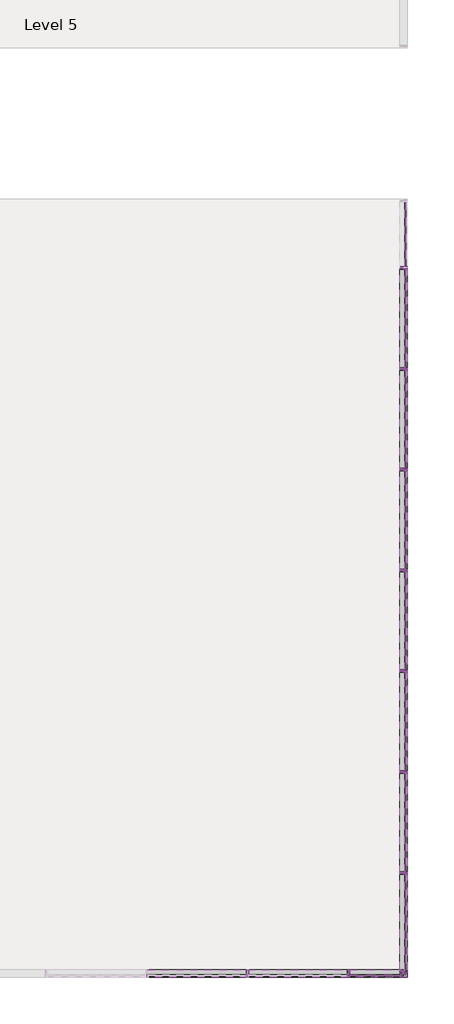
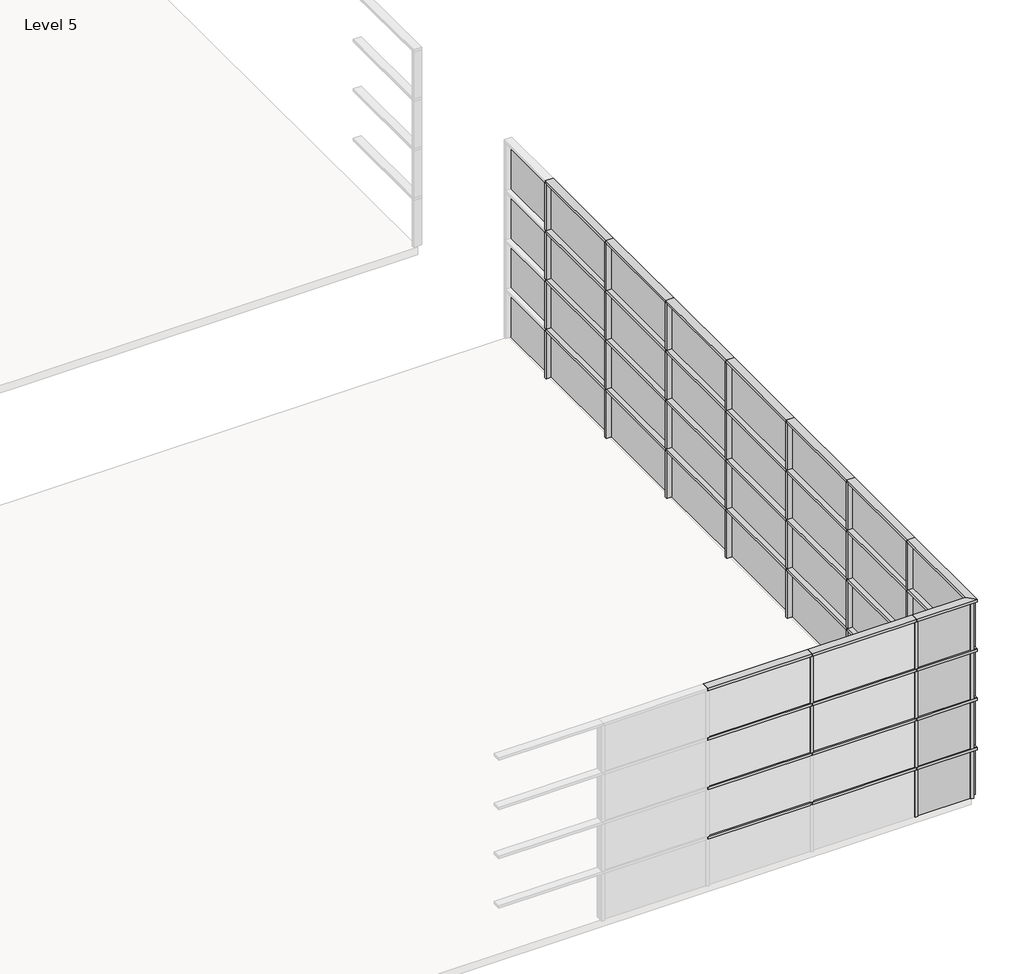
# One storey, part 3 of 5: 82 members, 36 plates.
"""IFC4 building model written with IfcOpenShell, lengths in millimetres."""

from ifc_helpers import new_model, si_unit, origin, place, context, project, spatial, transform, mapped, element, save
from components import rectangular_mullion_50_x_150mm_a053b0ca, rectangular_mullion_50_x_150mm_3a148f0f, rectangular_mullion_50_x_150mm_12a430f9, rectangular_mullion_50_x_150mm_947845bb, rectangular_mullion_50_x_150mm_f68fa77e, system_panel_glazed_751a585c, system_panel_glazed_08de6f5f, system_panel_glazed_3987acf4, system_panel_glazed_8ec8f306

model = new_model("IFC4")

# Units and contexts
model_context = context("Model", 3, world=origin())
ifc_project = project(units=[si_unit("LENGTHUNIT", "METRE", prefix="MILLI")], contexts=[model_context])

# Site, building, storey
site = spatial("IfcSite", under=ifc_project)
building = spatial("IfcBuilding", under=site)
storey = spatial("IfcBuildingStorey", under=building, Name="Level 5", Elevation=16000.0)

# Members
placement = place(None, origin())
rectangular_mullion_50_x_150mm_shape = rectangular_mullion_50_x_150mm_a053b0ca(model_context)
element("IfcMember", 1, ObjectType="Rectangular Mullion : 50 x 150mm", at=placement, inside=storey, context=model_context, shape_type="MappedRepresentation", body=[
    mapped(rectangular_mullion_50_x_150mm_shape, transform((10412.826594, -21988.7417365, 18025.0), x_axis=(1.0, 0.0, 0.0), y_axis=(0.0, -1.0, 0.0), z_axis=(0.0, 0.0, -1.0))),
])
element("IfcMember", 2, ObjectType="Rectangular Mullion : 50 x 150mm", at=placement, inside=storey, context=model_context, shape_type="MappedRepresentation", body=[
    mapped(rectangular_mullion_50_x_150mm_shape, transform((10412.826594, -21988.7417365, 19025.0), x_axis=(1.0, 0.0, 0.0), y_axis=(0.0, -1.0, 0.0), z_axis=(0.0, 0.0, -1.0))),
])
element("IfcMember", 3, ObjectType="Rectangular Mullion : 50 x 150mm", at=placement, inside=storey, context=model_context, shape_type="MappedRepresentation", body=[
    mapped(rectangular_mullion_50_x_150mm_shape, transform((12412.826594, -21988.7417365, 16025.0), x_axis=(1.0, 0.0, 0.0), y_axis=(0.0, -1.0, 0.0), z_axis=(0.0, 0.0, -0.9999999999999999))),
])
element("IfcMember", 4, ObjectType="Rectangular Mullion : 50 x 150mm", at=placement, inside=storey, context=model_context, shape_type="MappedRepresentation", body=[
    mapped(rectangular_mullion_50_x_150mm_shape, transform((12412.826594, -21988.7417365, 17025.0), x_axis=(1.0, 0.0, 0.0), y_axis=(0.0, -1.0, 0.0), z_axis=(0.0, 0.0, -1.0))),
])
element("IfcMember", 5, ObjectType="Rectangular Mullion : 50 x 150mm", at=placement, inside=storey, context=model_context, shape_type="MappedRepresentation", body=[
    mapped(rectangular_mullion_50_x_150mm_shape, transform((12412.826594, -21988.7417365, 18025.0), x_axis=(1.0, 0.0, 0.0), y_axis=(0.0, -1.0, 0.0), z_axis=(0.0, 0.0, -0.9999999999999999))),
])
element("IfcMember", 6, ObjectType="Rectangular Mullion : 50 x 150mm", at=placement, inside=storey, context=model_context, shape_type="MappedRepresentation", body=[
    mapped(rectangular_mullion_50_x_150mm_shape, transform((12412.826594, -21988.7417365, 19025.0), x_axis=(1.0, 0.0, 0.0), y_axis=(0.0, -1.0, 0.0), z_axis=(0.0, 0.0, -1.0))),
])
element("IfcMember", 7, ObjectType="Rectangular Mullion : 50 x 150mm", at=placement, inside=storey, context=model_context, shape_type="MappedRepresentation", body=[
    mapped(rectangular_mullion_50_x_150mm_shape, transform((13503.2660975, -13988.7417365, 16025.0), x_axis=(0.0, 1.0, 0.0), y_axis=(1.0, 0.0, 0.0), z_axis=(0.0, 0.0, -1.0))),
])
element("IfcMember", 8, ObjectType="Rectangular Mullion : 50 x 150mm", at=placement, inside=storey, context=model_context, shape_type="MappedRepresentation", body=[
    mapped(rectangular_mullion_50_x_150mm_shape, transform((13503.2660975, -13988.7417365, 17025.0), x_axis=(0.0, 1.0, 0.0), y_axis=(1.0, 0.0, 0.0), z_axis=(0.0, 0.0, -1.0))),
])
element("IfcMember", 9, ObjectType="Rectangular Mullion : 50 x 150mm", at=placement, inside=storey, context=model_context, shape_type="MappedRepresentation", body=[
    mapped(rectangular_mullion_50_x_150mm_shape, transform((13503.2660975, -13988.7417365, 18025.0), x_axis=(0.0, 1.0, 0.0), y_axis=(1.0, 0.0, 0.0), z_axis=(0.0, 0.0, -1.0))),
])
element("IfcMember", 10, ObjectType="Rectangular Mullion : 50 x 150mm", at=placement, inside=storey, context=model_context, shape_type="MappedRepresentation", body=[
    mapped(rectangular_mullion_50_x_150mm_shape, transform((13503.2660975, -13988.7417365, 19025.0), x_axis=(0.0, 1.0, 0.0), y_axis=(1.0, 0.0, 0.0), z_axis=(0.0, 0.0, -1.0))),
])
element("IfcMember", 11, ObjectType="Rectangular Mullion : 50 x 150mm", at=placement, inside=storey, context=model_context, shape_type="MappedRepresentation", body=[
    mapped(rectangular_mullion_50_x_150mm_shape, transform((13503.2660975, -11988.7417365, 16025.0), x_axis=(0.0, 1.0, 0.0), y_axis=(1.0, 0.0, 0.0), z_axis=(0.0, 0.0, -1.0))),
])
element("IfcMember", 12, ObjectType="Rectangular Mullion : 50 x 150mm", at=placement, inside=storey, context=model_context, shape_type="MappedRepresentation", body=[
    mapped(rectangular_mullion_50_x_150mm_shape, transform((13503.2660975, -11988.7417365, 17025.0), x_axis=(0.0, 1.0, 0.0), y_axis=(1.0, 0.0, 0.0), z_axis=(0.0, 0.0, -1.0))),
])
element("IfcMember", 13, ObjectType="Rectangular Mullion : 50 x 150mm", at=placement, inside=storey, context=model_context, shape_type="MappedRepresentation", body=[
    mapped(rectangular_mullion_50_x_150mm_shape, transform((13503.2660975, -11988.7417365, 18025.0), x_axis=(0.0, 1.0, 0.0), y_axis=(1.0, 0.0, 0.0), z_axis=(0.0, 0.0, -1.0))),
])
element("IfcMember", 14, ObjectType="Rectangular Mullion : 50 x 150mm", at=placement, inside=storey, context=model_context, shape_type="MappedRepresentation", body=[
    mapped(rectangular_mullion_50_x_150mm_shape, transform((13503.2660975, -11988.7417365, 19025.0), x_axis=(0.0, 1.0, 0.0), y_axis=(1.0, 0.0, 0.0), z_axis=(0.0, 0.0, -1.0))),
])
element("IfcMember", 15, ObjectType="Rectangular Mullion : 50 x 150mm", at=placement, inside=storey, context=model_context, shape_type="MappedRepresentation", body=[
    mapped(rectangular_mullion_50_x_150mm_shape, transform((13503.2660975, -9988.7417365, 16025.0), x_axis=(0.0, 1.0, 0.0), y_axis=(1.0, 0.0, 0.0), z_axis=(0.0, 0.0, -1.0))),
])
element("IfcMember", 16, ObjectType="Rectangular Mullion : 50 x 150mm", at=placement, inside=storey, context=model_context, shape_type="MappedRepresentation", body=[
    mapped(rectangular_mullion_50_x_150mm_shape, transform((13503.2660975, -9988.7417365, 17025.0), x_axis=(0.0, 1.0, 0.0), y_axis=(1.0, 0.0, 0.0), z_axis=(0.0, 0.0, -1.0))),
])
element("IfcMember", 17, ObjectType="Rectangular Mullion : 50 x 150mm", at=placement, inside=storey, context=model_context, shape_type="MappedRepresentation", body=[
    mapped(rectangular_mullion_50_x_150mm_shape, transform((13503.2660975, -9988.7417365, 18025.0), x_axis=(0.0, 1.0, 0.0), y_axis=(1.0, 0.0, 0.0), z_axis=(0.0, 0.0, -1.0))),
])
element("IfcMember", 18, ObjectType="Rectangular Mullion : 50 x 150mm", at=placement, inside=storey, context=model_context, shape_type="MappedRepresentation", body=[
    mapped(rectangular_mullion_50_x_150mm_shape, transform((13503.2660975, -9988.7417365, 19025.0), x_axis=(0.0, 1.0, 0.0), y_axis=(1.0, 0.0, 0.0), z_axis=(0.0, 0.0, -1.0))),
])
element("IfcMember", 19, ObjectType="Rectangular Mullion : 50 x 150mm", at=placement, inside=storey, context=model_context, shape_type="MappedRepresentation", body=[
    mapped(rectangular_mullion_50_x_150mm_shape, transform((13503.2660975, -7988.7417365, 16025.0), x_axis=(0.0, 1.0, 0.0), y_axis=(1.0, 0.0, 0.0), z_axis=(0.0, 0.0, -1.0))),
])
element("IfcMember", 20, ObjectType="Rectangular Mullion : 50 x 150mm", at=placement, inside=storey, context=model_context, shape_type="MappedRepresentation", body=[
    mapped(rectangular_mullion_50_x_150mm_shape, transform((13503.2660975, -7988.7417365, 17025.0), x_axis=(0.0, 1.0, 0.0), y_axis=(1.0, 0.0, 0.0), z_axis=(0.0, 0.0, -1.0))),
])
element("IfcMember", 21, ObjectType="Rectangular Mullion : 50 x 150mm", at=placement, inside=storey, context=model_context, shape_type="MappedRepresentation", body=[
    mapped(rectangular_mullion_50_x_150mm_shape, transform((13503.2660975, -7988.7417365, 18025.0), x_axis=(0.0, 1.0, 0.0), y_axis=(1.0, 0.0, 0.0), z_axis=(0.0, 0.0, -1.0))),
])
element("IfcMember", 22, ObjectType="Rectangular Mullion : 50 x 150mm", at=placement, inside=storey, context=model_context, shape_type="MappedRepresentation", body=[
    mapped(rectangular_mullion_50_x_150mm_shape, transform((13503.2660975, -7988.7417365, 19025.0), x_axis=(0.0, 1.0, 0.0), y_axis=(1.0, 0.0, 0.0), z_axis=(0.0, 0.0, -1.0))),
])
element("IfcMember", 23, ObjectType="Rectangular Mullion : 50 x 150mm", at=placement, inside=storey, context=model_context, shape_type="MappedRepresentation", body=[
    mapped(rectangular_mullion_50_x_150mm_shape, transform((13503.2660975, -19988.7417365, 16025.0), x_axis=(0.0, 1.0, 0.0), y_axis=(1.0, 0.0, 0.0), z_axis=(0.0, 0.0, -1.0))),
])
element("IfcMember", 24, ObjectType="Rectangular Mullion : 50 x 150mm", at=placement, inside=storey, context=model_context, shape_type="MappedRepresentation", body=[
    mapped(rectangular_mullion_50_x_150mm_shape, transform((13503.2660975, -19988.7417365, 17025.0), x_axis=(0.0, 1.0, 0.0), y_axis=(1.0, 0.0, 0.0), z_axis=(0.0, 0.0, -1.0))),
])
element("IfcMember", 25, ObjectType="Rectangular Mullion : 50 x 150mm", at=placement, inside=storey, context=model_context, shape_type="MappedRepresentation", body=[
    mapped(rectangular_mullion_50_x_150mm_shape, transform((13503.2660975, -19988.7417365, 18025.0), x_axis=(0.0, 1.0, 0.0), y_axis=(1.0, 0.0, 0.0), z_axis=(0.0, 0.0, -1.0))),
])
element("IfcMember", 26, ObjectType="Rectangular Mullion : 50 x 150mm", at=placement, inside=storey, context=model_context, shape_type="MappedRepresentation", body=[
    mapped(rectangular_mullion_50_x_150mm_shape, transform((13503.2660975, -19988.7417365, 19025.0), x_axis=(0.0, 1.0, 0.0), y_axis=(1.0, 0.0, 0.0), z_axis=(0.0, 0.0, -1.0))),
])
element("IfcMember", 27, ObjectType="Rectangular Mullion : 50 x 150mm", at=placement, inside=storey, context=model_context, shape_type="MappedRepresentation", body=[
    mapped(rectangular_mullion_50_x_150mm_shape, transform((13503.2660975, -17988.7417365, 16025.0), x_axis=(0.0, 1.0, 0.0), y_axis=(1.0, 0.0, 0.0), z_axis=(0.0, 0.0, -1.0))),
])
element("IfcMember", 28, ObjectType="Rectangular Mullion : 50 x 150mm", at=placement, inside=storey, context=model_context, shape_type="MappedRepresentation", body=[
    mapped(rectangular_mullion_50_x_150mm_shape, transform((13503.2660975, -17988.7417365, 17025.0), x_axis=(0.0, 1.0, 0.0), y_axis=(1.0, 0.0, 0.0), z_axis=(0.0, 0.0, -1.0))),
])
element("IfcMember", 29, ObjectType="Rectangular Mullion : 50 x 150mm", at=placement, inside=storey, context=model_context, shape_type="MappedRepresentation", body=[
    mapped(rectangular_mullion_50_x_150mm_shape, transform((13503.2660975, -17988.7417365, 18025.0), x_axis=(0.0, 1.0, 0.0), y_axis=(1.0, 0.0, 0.0), z_axis=(0.0, 0.0, -1.0))),
])
element("IfcMember", 30, ObjectType="Rectangular Mullion : 50 x 150mm", at=placement, inside=storey, context=model_context, shape_type="MappedRepresentation", body=[
    mapped(rectangular_mullion_50_x_150mm_shape, transform((13503.2660975, -17988.7417365, 19025.0), x_axis=(0.0, 1.0, 0.0), y_axis=(1.0, 0.0, 0.0), z_axis=(0.0, 0.0, -1.0))),
])
element("IfcMember", 31, ObjectType="Rectangular Mullion : 50 x 150mm", at=placement, inside=storey, context=model_context, shape_type="MappedRepresentation", body=[
    mapped(rectangular_mullion_50_x_150mm_shape, transform((13503.2660975, -15988.7417365, 16025.0), x_axis=(0.0, 1.0, 0.0), y_axis=(1.0, 0.0, 0.0), z_axis=(0.0, 0.0, -1.0))),
])
element("IfcMember", 32, ObjectType="Rectangular Mullion : 50 x 150mm", at=placement, inside=storey, context=model_context, shape_type="MappedRepresentation", body=[
    mapped(rectangular_mullion_50_x_150mm_shape, transform((13503.2660975, -15988.7417365, 17025.0), x_axis=(0.0, 1.0, 0.0), y_axis=(1.0, 0.0, 0.0), z_axis=(0.0, 0.0, -1.0))),
])
element("IfcMember", 33, ObjectType="Rectangular Mullion : 50 x 150mm", at=placement, inside=storey, context=model_context, shape_type="MappedRepresentation", body=[
    mapped(rectangular_mullion_50_x_150mm_shape, transform((13503.2660975, -15988.7417365, 18025.0), x_axis=(0.0, 1.0, 0.0), y_axis=(1.0, 0.0, 0.0), z_axis=(0.0, 0.0, -1.0))),
])
element("IfcMember", 34, ObjectType="Rectangular Mullion : 50 x 150mm", at=placement, inside=storey, context=model_context, shape_type="MappedRepresentation", body=[
    mapped(rectangular_mullion_50_x_150mm_shape, transform((13503.2660975, -15988.7417365, 19025.0), x_axis=(0.0, 1.0, 0.0), y_axis=(1.0, 0.0, 0.0), z_axis=(0.0, 0.0, -1.0))),
])
rectangular_mullion_50_x_150mm_2_shape = rectangular_mullion_50_x_150mm_3a148f0f(model_context)
element("IfcMember", 35, ObjectType="Rectangular Mullion : 50 x 150mm", at=placement, inside=storey, context=model_context, shape_type="MappedRepresentation", body=[
    mapped(rectangular_mullion_50_x_150mm_2_shape, transform((10412.826594, -21988.7417365, 17000.0), x_axis=(0.0, 0.0, 1.0), y_axis=(0.0, -1.0, 0.0), z_axis=(1.0, 0.0, 0.0))),
])
element("IfcMember", 36, ObjectType="Rectangular Mullion : 50 x 150mm", at=placement, inside=storey, context=model_context, shape_type="MappedRepresentation", body=[
    mapped(rectangular_mullion_50_x_150mm_2_shape, transform((12412.826594, -21988.7417365, 17000.0), x_axis=(0.0, 0.0, 1.0), y_axis=(0.0, -1.0, 0.0), z_axis=(1.0, 0.0, 0.0))),
])
element("IfcMember", 37, ObjectType="Rectangular Mullion : 50 x 150mm", at=placement, inside=storey, context=model_context, shape_type="MappedRepresentation", body=[
    mapped(rectangular_mullion_50_x_150mm_2_shape, transform((10412.826594, -21988.7417365, 18000.0), x_axis=(0.0, 0.0, 1.0), y_axis=(0.0, -1.0, 0.0), z_axis=(1.0, 0.0, 0.0))),
])
element("IfcMember", 38, ObjectType="Rectangular Mullion : 50 x 150mm", at=placement, inside=storey, context=model_context, shape_type="MappedRepresentation", body=[
    mapped(rectangular_mullion_50_x_150mm_2_shape, transform((12412.826594, -21988.7417365, 18000.0), x_axis=(0.0, 0.0, 1.0), y_axis=(0.0, -1.0, 0.0), z_axis=(1.0, 0.0, 0.0))),
])
element("IfcMember", 39, ObjectType="Rectangular Mullion : 50 x 150mm", at=placement, inside=storey, context=model_context, shape_type="MappedRepresentation", body=[
    mapped(rectangular_mullion_50_x_150mm_2_shape, transform((10412.826594, -21988.7417365, 19000.0), x_axis=(0.0, 0.0, 1.0), y_axis=(0.0, -1.0, 0.0), z_axis=(1.0, 0.0, 0.0))),
])
element("IfcMember", 40, ObjectType="Rectangular Mullion : 50 x 150mm", at=placement, inside=storey, context=model_context, shape_type="MappedRepresentation", body=[
    mapped(rectangular_mullion_50_x_150mm_2_shape, transform((12412.826594, -21988.7417365, 19000.0), x_axis=(0.0, 0.0, 1.0), y_axis=(0.0, -1.0, 0.0), z_axis=(1.0, 0.0, 0.0))),
])
element("IfcMember", 41, ObjectType="Rectangular Mullion : 50 x 150mm", at=placement, inside=storey, context=model_context, shape_type="MappedRepresentation", body=[
    mapped(rectangular_mullion_50_x_150mm_2_shape, transform((10412.826594, -21988.7417365, 20000.0), x_axis=(0.0, 0.0, 1.0), y_axis=(0.0, -1.0, 0.0), z_axis=(1.0, 0.0, 0.0))),
])
element("IfcMember", 42, ObjectType="Rectangular Mullion : 50 x 150mm", at=placement, inside=storey, context=model_context, shape_type="MappedRepresentation", body=[
    mapped(rectangular_mullion_50_x_150mm_2_shape, transform((12412.826594, -21988.7417365, 20000.0), x_axis=(0.0, 0.0, 1.0), y_axis=(0.0, -1.0, 0.0), z_axis=(1.0, 0.0, 0.0))),
])
element("IfcMember", 43, ObjectType="Rectangular Mullion : 50 x 150mm", at=placement, inside=storey, context=model_context, shape_type="MappedRepresentation", body=[
    mapped(rectangular_mullion_50_x_150mm_2_shape, transform((13503.2660975, -17988.7417365, 17000.0), x_axis=(0.0, 0.0, 1.0), y_axis=(1.0, 0.0, 0.0), z_axis=(0.0, 1.0, 0.0))),
])
element("IfcMember", 44, ObjectType="Rectangular Mullion : 50 x 150mm", at=placement, inside=storey, context=model_context, shape_type="MappedRepresentation", body=[
    mapped(rectangular_mullion_50_x_150mm_2_shape, transform((13503.2660975, -15988.7417365, 17000.0), x_axis=(0.0, 0.0, 1.0), y_axis=(1.0, 0.0, 0.0), z_axis=(0.0, 1.0, 0.0))),
])
element("IfcMember", 45, ObjectType="Rectangular Mullion : 50 x 150mm", at=placement, inside=storey, context=model_context, shape_type="MappedRepresentation", body=[
    mapped(rectangular_mullion_50_x_150mm_2_shape, transform((13503.2660975, -13988.7417365, 17000.0), x_axis=(0.0, 0.0, 1.0), y_axis=(1.0, 0.0, 0.0), z_axis=(0.0, 1.0, 0.0))),
])
element("IfcMember", 46, ObjectType="Rectangular Mullion : 50 x 150mm", at=placement, inside=storey, context=model_context, shape_type="MappedRepresentation", body=[
    mapped(rectangular_mullion_50_x_150mm_2_shape, transform((13503.2660975, -11988.7417365, 17000.0), x_axis=(0.0, 0.0, 1.0), y_axis=(1.0, 0.0, 0.0), z_axis=(0.0, 1.0, 0.0))),
])
element("IfcMember", 47, ObjectType="Rectangular Mullion : 50 x 150mm", at=placement, inside=storey, context=model_context, shape_type="MappedRepresentation", body=[
    mapped(rectangular_mullion_50_x_150mm_2_shape, transform((13503.2660975, -9988.7417365, 17000.0), x_axis=(0.0, 0.0, 1.0), y_axis=(1.0, 0.0, 0.0), z_axis=(0.0, 1.0, 0.0))),
])
element("IfcMember", 48, ObjectType="Rectangular Mullion : 50 x 150mm", at=placement, inside=storey, context=model_context, shape_type="MappedRepresentation", body=[
    mapped(rectangular_mullion_50_x_150mm_2_shape, transform((13503.2660975, -7988.7417365, 17000.0), x_axis=(0.0, 0.0, 1.0), y_axis=(1.0, 0.0, 0.0), z_axis=(0.0, 1.0, 0.0))),
])
element("IfcMember", 49, ObjectType="Rectangular Mullion : 50 x 150mm", at=placement, inside=storey, context=model_context, shape_type="MappedRepresentation", body=[
    mapped(rectangular_mullion_50_x_150mm_2_shape, transform((13503.2660975, -17988.7417365, 18000.0), x_axis=(0.0, 0.0, 1.0), y_axis=(1.0, 0.0, 0.0), z_axis=(0.0, 1.0, 0.0))),
])
element("IfcMember", 50, ObjectType="Rectangular Mullion : 50 x 150mm", at=placement, inside=storey, context=model_context, shape_type="MappedRepresentation", body=[
    mapped(rectangular_mullion_50_x_150mm_2_shape, transform((13503.2660975, -15988.7417365, 18000.0), x_axis=(0.0, 0.0, 1.0), y_axis=(1.0, 0.0, 0.0), z_axis=(0.0, 1.0, 0.0))),
])
element("IfcMember", 51, ObjectType="Rectangular Mullion : 50 x 150mm", at=placement, inside=storey, context=model_context, shape_type="MappedRepresentation", body=[
    mapped(rectangular_mullion_50_x_150mm_2_shape, transform((13503.2660975, -13988.7417365, 18000.0), x_axis=(0.0, 0.0, 1.0), y_axis=(1.0, 0.0, 0.0), z_axis=(0.0, 1.0, 0.0))),
])
element("IfcMember", 52, ObjectType="Rectangular Mullion : 50 x 150mm", at=placement, inside=storey, context=model_context, shape_type="MappedRepresentation", body=[
    mapped(rectangular_mullion_50_x_150mm_2_shape, transform((13503.2660975, -11988.7417365, 18000.0), x_axis=(0.0, 0.0, 1.0), y_axis=(1.0, 0.0, 0.0), z_axis=(0.0, 1.0, 0.0))),
])
element("IfcMember", 53, ObjectType="Rectangular Mullion : 50 x 150mm", at=placement, inside=storey, context=model_context, shape_type="MappedRepresentation", body=[
    mapped(rectangular_mullion_50_x_150mm_2_shape, transform((13503.2660975, -9988.7417365, 18000.0), x_axis=(0.0, 0.0, 1.0), y_axis=(1.0, 0.0, 0.0), z_axis=(0.0, 1.0, 0.0))),
])
element("IfcMember", 54, ObjectType="Rectangular Mullion : 50 x 150mm", at=placement, inside=storey, context=model_context, shape_type="MappedRepresentation", body=[
    mapped(rectangular_mullion_50_x_150mm_2_shape, transform((13503.2660975, -7988.7417365, 18000.0), x_axis=(0.0, 0.0, 1.0), y_axis=(1.0, 0.0, 0.0), z_axis=(0.0, 1.0, 0.0))),
])
element("IfcMember", 55, ObjectType="Rectangular Mullion : 50 x 150mm", at=placement, inside=storey, context=model_context, shape_type="MappedRepresentation", body=[
    mapped(rectangular_mullion_50_x_150mm_2_shape, transform((13503.2660975, -17988.7417365, 19000.0), x_axis=(0.0, 0.0, 1.0), y_axis=(1.0, 0.0, 0.0), z_axis=(0.0, 1.0, 0.0))),
])
element("IfcMember", 56, ObjectType="Rectangular Mullion : 50 x 150mm", at=placement, inside=storey, context=model_context, shape_type="MappedRepresentation", body=[
    mapped(rectangular_mullion_50_x_150mm_2_shape, transform((13503.2660975, -15988.7417365, 19000.0), x_axis=(0.0, 0.0, 1.0), y_axis=(1.0, 0.0, 0.0), z_axis=(0.0, 1.0, 0.0))),
])
element("IfcMember", 57, ObjectType="Rectangular Mullion : 50 x 150mm", at=placement, inside=storey, context=model_context, shape_type="MappedRepresentation", body=[
    mapped(rectangular_mullion_50_x_150mm_2_shape, transform((13503.2660975, -13988.7417365, 19000.0), x_axis=(0.0, 0.0, 1.0), y_axis=(1.0, 0.0, 0.0), z_axis=(0.0, 1.0, 0.0))),
])
element("IfcMember", 58, ObjectType="Rectangular Mullion : 50 x 150mm", at=placement, inside=storey, context=model_context, shape_type="MappedRepresentation", body=[
    mapped(rectangular_mullion_50_x_150mm_2_shape, transform((13503.2660975, -11988.7417365, 19000.0), x_axis=(0.0, 0.0, 1.0), y_axis=(1.0, 0.0, 0.0), z_axis=(0.0, 1.0, 0.0))),
])
element("IfcMember", 59, ObjectType="Rectangular Mullion : 50 x 150mm", at=placement, inside=storey, context=model_context, shape_type="MappedRepresentation", body=[
    mapped(rectangular_mullion_50_x_150mm_2_shape, transform((13503.2660975, -9988.7417365, 19000.0), x_axis=(0.0, 0.0, 1.0), y_axis=(1.0, 0.0, 0.0), z_axis=(0.0, 1.0, 0.0))),
])
element("IfcMember", 60, ObjectType="Rectangular Mullion : 50 x 150mm", at=placement, inside=storey, context=model_context, shape_type="MappedRepresentation", body=[
    mapped(rectangular_mullion_50_x_150mm_2_shape, transform((13503.2660975, -7988.7417365, 19000.0), x_axis=(0.0, 0.0, 1.0), y_axis=(1.0, 0.0, 0.0), z_axis=(0.0, 1.0, 0.0))),
])
element("IfcMember", 61, ObjectType="Rectangular Mullion : 50 x 150mm", at=placement, inside=storey, context=model_context, shape_type="MappedRepresentation", body=[
    mapped(rectangular_mullion_50_x_150mm_2_shape, transform((13503.2660975, -17988.7417365, 20000.0), x_axis=(0.0, 0.0, 1.0), y_axis=(1.0, 0.0, 0.0), z_axis=(0.0, 1.0, 0.0))),
])
element("IfcMember", 62, ObjectType="Rectangular Mullion : 50 x 150mm", at=placement, inside=storey, context=model_context, shape_type="MappedRepresentation", body=[
    mapped(rectangular_mullion_50_x_150mm_2_shape, transform((13503.2660975, -15988.7417365, 20000.0), x_axis=(0.0, 0.0, 1.0), y_axis=(1.0, 0.0, 0.0), z_axis=(0.0, 1.0, 0.0))),
])
element("IfcMember", 63, ObjectType="Rectangular Mullion : 50 x 150mm", at=placement, inside=storey, context=model_context, shape_type="MappedRepresentation", body=[
    mapped(rectangular_mullion_50_x_150mm_2_shape, transform((13503.2660975, -13988.7417365, 20000.0), x_axis=(0.0, 0.0, 1.0), y_axis=(1.0, 0.0, 0.0), z_axis=(0.0, 1.0, 0.0))),
])
element("IfcMember", 64, ObjectType="Rectangular Mullion : 50 x 150mm", at=placement, inside=storey, context=model_context, shape_type="MappedRepresentation", body=[
    mapped(rectangular_mullion_50_x_150mm_2_shape, transform((13503.2660975, -11988.7417365, 20000.0), x_axis=(0.0, 0.0, 1.0), y_axis=(1.0, 0.0, 0.0), z_axis=(0.0, 1.0, 0.0))),
])
element("IfcMember", 65, ObjectType="Rectangular Mullion : 50 x 150mm", at=placement, inside=storey, context=model_context, shape_type="MappedRepresentation", body=[
    mapped(rectangular_mullion_50_x_150mm_2_shape, transform((13503.2660975, -9988.7417365, 20000.0), x_axis=(0.0, 0.0, 1.0), y_axis=(1.0, 0.0, 0.0), z_axis=(0.0, 1.0, 0.0))),
])
element("IfcMember", 66, ObjectType="Rectangular Mullion : 50 x 150mm", at=placement, inside=storey, context=model_context, shape_type="MappedRepresentation", body=[
    mapped(rectangular_mullion_50_x_150mm_2_shape, transform((13503.2660975, -7988.7417365, 20000.0), x_axis=(0.0, 0.0, 1.0), y_axis=(1.0, 0.0, 0.0), z_axis=(0.0, 1.0, 0.0))),
])
rectangular_mullion_50_x_150mm_3_shape = rectangular_mullion_50_x_150mm_12a430f9(model_context)
element("IfcMember", 67, ObjectType="Rectangular Mullion : 50 x 150mm", at=placement, inside=storey, context=model_context, shape_type="MappedRepresentation", body=[
    mapped(rectangular_mullion_50_x_150mm_3_shape, transform((13503.2660975, -21988.7417365, 16975.0), x_axis=(0.0, -1.0, 0.0), y_axis=(1.0, 0.0, 0.0), z_axis=(0.0, 0.0, 1.0))),
])
element("IfcMember", 68, ObjectType="Rectangular Mullion : 50 x 150mm", at=placement, inside=storey, context=model_context, shape_type="MappedRepresentation", body=[
    mapped(rectangular_mullion_50_x_150mm_3_shape, transform((13503.2660975, -21988.7417365, 17975.0), x_axis=(0.0, -1.0, 0.0), y_axis=(1.0, 0.0, 0.0), z_axis=(0.0, 0.0, 1.0))),
])
element("IfcMember", 69, ObjectType="Rectangular Mullion : 50 x 150mm", at=placement, inside=storey, context=model_context, shape_type="MappedRepresentation", body=[
    mapped(rectangular_mullion_50_x_150mm_3_shape, transform((13503.2660975, -21988.7417365, 18975.0), x_axis=(0.0, -1.0, 0.0), y_axis=(1.0, 0.0, 0.0), z_axis=(0.0, 0.0, 1.0))),
])
element("IfcMember", 70, ObjectType="Rectangular Mullion : 50 x 150mm", at=placement, inside=storey, context=model_context, shape_type="MappedRepresentation", body=[
    mapped(rectangular_mullion_50_x_150mm_3_shape, transform((13503.2660975, -21988.7417365, 19975.0), x_axis=(0.0, -1.0, 0.0), y_axis=(1.0, 0.0, 0.0), z_axis=(0.0, 0.0, 1.0))),
])
element("IfcMember", 71, ObjectType="Rectangular Mullion : 50 x 150mm", at=placement, inside=storey, context=model_context, shape_type="MappedRepresentation", body=[
    mapped(rectangular_mullion_50_x_150mm_3_shape, transform((13503.2660975, -21988.7417365, 16025.0), x_axis=(1.0, 0.0, 0.0), y_axis=(0.0, -1.0, 0.0), z_axis=(0.0, 0.0, -1.0))),
])
element("IfcMember", 72, ObjectType="Rectangular Mullion : 50 x 150mm", at=placement, inside=storey, context=model_context, shape_type="MappedRepresentation", body=[
    mapped(rectangular_mullion_50_x_150mm_3_shape, transform((13503.2660975, -21988.7417365, 17025.0), x_axis=(1.0, 0.0, 0.0), y_axis=(0.0, -1.0, 0.0), z_axis=(0.0, 0.0, -1.0))),
])
element("IfcMember", 73, ObjectType="Rectangular Mullion : 50 x 150mm", at=placement, inside=storey, context=model_context, shape_type="MappedRepresentation", body=[
    mapped(rectangular_mullion_50_x_150mm_3_shape, transform((13503.2660975, -21988.7417365, 18025.0), x_axis=(1.0, 0.0, 0.0), y_axis=(0.0, -1.0, 0.0), z_axis=(0.0, 0.0, -1.0))),
])
element("IfcMember", 74, ObjectType="Rectangular Mullion : 50 x 150mm", at=placement, inside=storey, context=model_context, shape_type="MappedRepresentation", body=[
    mapped(rectangular_mullion_50_x_150mm_3_shape, transform((13503.2660975, -21988.7417365, 19025.0), x_axis=(1.0, 0.0, 0.0), y_axis=(0.0, -1.0, 0.0), z_axis=(0.0, 0.0, -1.0))),
])
rectangular_mullion_50_x_150mm_4_shape = rectangular_mullion_50_x_150mm_947845bb(model_context)
element("IfcMember", 75, ObjectType="Rectangular Mullion : 50 x 150mm", at=placement, inside=storey, context=model_context, shape_type="MappedRepresentation", body=[
    mapped(rectangular_mullion_50_x_150mm_4_shape, transform((13503.2660975, -19988.7417365, 17000.0), x_axis=(0.0, 0.0, 1.0), y_axis=(1.0, 0.0, 0.0), z_axis=(0.0, 1.0, 0.0))),
])
element("IfcMember", 76, ObjectType="Rectangular Mullion : 50 x 150mm", at=placement, inside=storey, context=model_context, shape_type="MappedRepresentation", body=[
    mapped(rectangular_mullion_50_x_150mm_4_shape, transform((13503.2660975, -19988.7417365, 18000.0), x_axis=(0.0, 0.0, 1.0), y_axis=(1.0, 0.0, 0.0), z_axis=(0.0, 1.0, 0.0))),
])
element("IfcMember", 77, ObjectType="Rectangular Mullion : 50 x 150mm", at=placement, inside=storey, context=model_context, shape_type="MappedRepresentation", body=[
    mapped(rectangular_mullion_50_x_150mm_4_shape, transform((13503.2660975, -19988.7417365, 19000.0), x_axis=(0.0, 0.0, 1.0), y_axis=(1.0, 0.0, 0.0), z_axis=(0.0, 1.0, 0.0))),
])
element("IfcMember", 78, ObjectType="Rectangular Mullion : 50 x 150mm", at=placement, inside=storey, context=model_context, shape_type="MappedRepresentation", body=[
    mapped(rectangular_mullion_50_x_150mm_4_shape, transform((13503.2660975, -19988.7417365, 20000.0), x_axis=(0.0, 0.0, 1.0), y_axis=(1.0, 0.0, 0.0), z_axis=(0.0, 1.0, 0.0))),
])
rectangular_mullion_50_x_150mm_5_shape = rectangular_mullion_50_x_150mm_f68fa77e(model_context)
element("IfcMember", 79, ObjectType="Rectangular Mullion : 50 x 150mm", at=placement, inside=storey, context=model_context, shape_type="MappedRepresentation", body=[
    mapped(rectangular_mullion_50_x_150mm_5_shape, transform((13503.2660975, -21988.7417365, 17000.0), x_axis=(0.0, 0.0, 1.0), y_axis=(0.0, -1.0, 0.0), z_axis=(0.9999999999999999, 0.0, 0.0))),
])
element("IfcMember", 80, ObjectType="Rectangular Mullion : 50 x 150mm", at=placement, inside=storey, context=model_context, shape_type="MappedRepresentation", body=[
    mapped(rectangular_mullion_50_x_150mm_5_shape, transform((13503.2660975, -21988.7417365, 18000.0), x_axis=(0.0, 0.0, 1.0), y_axis=(0.0, -1.0, 0.0), z_axis=(0.9999999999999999, 0.0, 0.0))),
])
element("IfcMember", 81, ObjectType="Rectangular Mullion : 50 x 150mm", at=placement, inside=storey, context=model_context, shape_type="MappedRepresentation", body=[
    mapped(rectangular_mullion_50_x_150mm_5_shape, transform((13503.2660975, -21988.7417365, 19000.0), x_axis=(0.0, 0.0, 1.0), y_axis=(0.0, -1.0, 0.0), z_axis=(0.9999999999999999, 0.0, 0.0))),
])
element("IfcMember", 82, ObjectType="Rectangular Mullion : 50 x 150mm", at=placement, inside=storey, context=model_context, shape_type="MappedRepresentation", body=[
    mapped(rectangular_mullion_50_x_150mm_5_shape, transform((13503.2660975, -21988.7417365, 20000.0), x_axis=(0.0, 0.0, 1.0), y_axis=(0.0, -1.0, 0.0), z_axis=(0.9999999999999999, 0.0, 0.0))),
])

# Plates
system_panel_glazed_shape = system_panel_glazed_751a585c(model_context)
element("IfcPlate", 83, ObjectType="System Panel : Glazed", at=placement, inside=storey, context=model_context, shape_type="MappedRepresentation", body=[
    mapped(system_panel_glazed_shape, transform((13503.2660975, -21938.7417365, 16500.0), x_axis=(0.0, 0.0, 1.0), y_axis=(1.0, 0.0, 0.0), z_axis=(0.0, 1.0, 0.0))),
])
element("IfcPlate", 84, ObjectType="System Panel : Glazed", at=placement, inside=storey, context=model_context, shape_type="MappedRepresentation", body=[
    mapped(system_panel_glazed_shape, transform((13503.2660975, -21938.7417365, 17500.0), x_axis=(0.0, 0.0, 1.0), y_axis=(1.0, 0.0, 0.0), z_axis=(0.0, 1.0, 0.0))),
])
element("IfcPlate", 85, ObjectType="System Panel : Glazed", at=placement, inside=storey, context=model_context, shape_type="MappedRepresentation", body=[
    mapped(system_panel_glazed_shape, transform((13503.2660975, -21938.7417365, 18500.0), x_axis=(0.0, 0.0, 1.0), y_axis=(1.0, 0.0, 0.0), z_axis=(0.0, 1.0, 0.0))),
])
element("IfcPlate", 86, ObjectType="System Panel : Glazed", at=placement, inside=storey, context=model_context, shape_type="MappedRepresentation", body=[
    mapped(system_panel_glazed_shape, transform((13503.2660975, -21938.7417365, 19500.0), x_axis=(0.0, 0.0, 1.0), y_axis=(1.0, 0.0, 0.0), z_axis=(0.0, 1.0, 0.0))),
])
system_panel_glazed_2_shape = system_panel_glazed_08de6f5f(model_context)
element("IfcPlate", 87, ObjectType="System Panel : Glazed", at=placement, inside=storey, context=model_context, shape_type="MappedRepresentation", body=[
    mapped(system_panel_glazed_2_shape, transform((13503.2660975, -19963.7417365, 16500.0), x_axis=(0.0, 0.0, 1.0), y_axis=(1.0, 0.0, 0.0), z_axis=(0.0, 1.0, 0.0))),
])
element("IfcPlate", 88, ObjectType="System Panel : Glazed", at=placement, inside=storey, context=model_context, shape_type="MappedRepresentation", body=[
    mapped(system_panel_glazed_2_shape, transform((13503.2660975, -17963.7417365, 16500.0), x_axis=(0.0, 0.0, 1.0), y_axis=(1.0, 0.0, 0.0), z_axis=(0.0, 1.0, 0.0))),
])
element("IfcPlate", 89, ObjectType="System Panel : Glazed", at=placement, inside=storey, context=model_context, shape_type="MappedRepresentation", body=[
    mapped(system_panel_glazed_2_shape, transform((13503.2660975, -15963.7417365, 16500.0), x_axis=(0.0, 0.0, 1.0), y_axis=(1.0, 0.0, 0.0), z_axis=(0.0, 1.0, 0.0))),
])
element("IfcPlate", 90, ObjectType="System Panel : Glazed", at=placement, inside=storey, context=model_context, shape_type="MappedRepresentation", body=[
    mapped(system_panel_glazed_2_shape, transform((13503.2660975, -13963.7417365, 16500.0), x_axis=(0.0, 0.0, 1.0), y_axis=(1.0, 0.0, 0.0), z_axis=(0.0, 1.0, 0.0))),
])
element("IfcPlate", 91, ObjectType="System Panel : Glazed", at=placement, inside=storey, context=model_context, shape_type="MappedRepresentation", body=[
    mapped(system_panel_glazed_2_shape, transform((13503.2660975, -11963.7417365, 16500.0), x_axis=(0.0, 0.0, 1.0), y_axis=(1.0, 0.0, 0.0), z_axis=(0.0, 1.0, 0.0))),
])
element("IfcPlate", 92, ObjectType="System Panel : Glazed", at=placement, inside=storey, context=model_context, shape_type="MappedRepresentation", body=[
    mapped(system_panel_glazed_2_shape, transform((13503.2660975, -9963.7417365, 16500.0), x_axis=(0.0, 0.0, 1.0), y_axis=(1.0, 0.0, 0.0), z_axis=(0.0, 1.0, 0.0))),
])
element("IfcPlate", 93, ObjectType="System Panel : Glazed", at=placement, inside=storey, context=model_context, shape_type="MappedRepresentation", body=[
    mapped(system_panel_glazed_2_shape, transform((13503.2660975, -19963.7417365, 17500.0), x_axis=(0.0, 0.0, 1.0), y_axis=(1.0, 0.0, 0.0), z_axis=(0.0, 1.0, 0.0))),
])
element("IfcPlate", 94, ObjectType="System Panel : Glazed", at=placement, inside=storey, context=model_context, shape_type="MappedRepresentation", body=[
    mapped(system_panel_glazed_2_shape, transform((13503.2660975, -17963.7417365, 17500.0), x_axis=(0.0, 0.0, 1.0), y_axis=(1.0, 0.0, 0.0), z_axis=(0.0, 1.0, 0.0))),
])
element("IfcPlate", 95, ObjectType="System Panel : Glazed", at=placement, inside=storey, context=model_context, shape_type="MappedRepresentation", body=[
    mapped(system_panel_glazed_2_shape, transform((13503.2660975, -15963.7417365, 17500.0), x_axis=(0.0, 0.0, 1.0), y_axis=(1.0, 0.0, 0.0), z_axis=(0.0, 1.0, 0.0))),
])
element("IfcPlate", 96, ObjectType="System Panel : Glazed", at=placement, inside=storey, context=model_context, shape_type="MappedRepresentation", body=[
    mapped(system_panel_glazed_2_shape, transform((13503.2660975, -13963.7417365, 17500.0), x_axis=(0.0, 0.0, 1.0), y_axis=(1.0, 0.0, 0.0), z_axis=(0.0, 1.0, 0.0))),
])
element("IfcPlate", 97, ObjectType="System Panel : Glazed", at=placement, inside=storey, context=model_context, shape_type="MappedRepresentation", body=[
    mapped(system_panel_glazed_2_shape, transform((13503.2660975, -11963.7417365, 17500.0), x_axis=(0.0, 0.0, 1.0), y_axis=(1.0, 0.0, 0.0), z_axis=(0.0, 1.0, 0.0))),
])
element("IfcPlate", 98, ObjectType="System Panel : Glazed", at=placement, inside=storey, context=model_context, shape_type="MappedRepresentation", body=[
    mapped(system_panel_glazed_2_shape, transform((13503.2660975, -9963.7417365, 17500.0), x_axis=(0.0, 0.0, 1.0), y_axis=(1.0, 0.0, 0.0), z_axis=(0.0, 1.0, 0.0))),
])
element("IfcPlate", 99, ObjectType="System Panel : Glazed", at=placement, inside=storey, context=model_context, shape_type="MappedRepresentation", body=[
    mapped(system_panel_glazed_2_shape, transform((13503.2660975, -19963.7417365, 18500.0), x_axis=(0.0, 0.0, 1.0), y_axis=(1.0, 0.0, 0.0), z_axis=(0.0, 1.0, 0.0))),
])
element("IfcPlate", 100, ObjectType="System Panel : Glazed", at=placement, inside=storey, context=model_context, shape_type="MappedRepresentation", body=[
    mapped(system_panel_glazed_2_shape, transform((13503.2660975, -17963.7417365, 18500.0), x_axis=(0.0, 0.0, 1.0), y_axis=(1.0, 0.0, 0.0), z_axis=(0.0, 1.0, 0.0))),
])
element("IfcPlate", 101, ObjectType="System Panel : Glazed", at=placement, inside=storey, context=model_context, shape_type="MappedRepresentation", body=[
    mapped(system_panel_glazed_2_shape, transform((13503.2660975, -15963.7417365, 18500.0), x_axis=(0.0, 0.0, 1.0), y_axis=(1.0, 0.0, 0.0), z_axis=(0.0, 1.0, 0.0))),
])
element("IfcPlate", 102, ObjectType="System Panel : Glazed", at=placement, inside=storey, context=model_context, shape_type="MappedRepresentation", body=[
    mapped(system_panel_glazed_2_shape, transform((13503.2660975, -13963.7417365, 18500.0), x_axis=(0.0, 0.0, 1.0), y_axis=(1.0, 0.0, 0.0), z_axis=(0.0, 1.0, 0.0))),
])
element("IfcPlate", 103, ObjectType="System Panel : Glazed", at=placement, inside=storey, context=model_context, shape_type="MappedRepresentation", body=[
    mapped(system_panel_glazed_2_shape, transform((13503.2660975, -11963.7417365, 18500.0), x_axis=(0.0, 0.0, 1.0), y_axis=(1.0, 0.0, 0.0), z_axis=(0.0, 1.0, 0.0))),
])
element("IfcPlate", 104, ObjectType="System Panel : Glazed", at=placement, inside=storey, context=model_context, shape_type="MappedRepresentation", body=[
    mapped(system_panel_glazed_2_shape, transform((13503.2660975, -9963.7417365, 18500.0), x_axis=(0.0, 0.0, 1.0), y_axis=(1.0, 0.0, 0.0), z_axis=(0.0, 1.0, 0.0))),
])
element("IfcPlate", 105, ObjectType="System Panel : Glazed", at=placement, inside=storey, context=model_context, shape_type="MappedRepresentation", body=[
    mapped(system_panel_glazed_2_shape, transform((13503.2660975, -19963.7417365, 19500.0), x_axis=(0.0, 0.0, 1.0), y_axis=(1.0, 0.0, 0.0), z_axis=(0.0, 1.0, 0.0))),
])
element("IfcPlate", 106, ObjectType="System Panel : Glazed", at=placement, inside=storey, context=model_context, shape_type="MappedRepresentation", body=[
    mapped(system_panel_glazed_2_shape, transform((13503.2660975, -17963.7417365, 19500.0), x_axis=(0.0, 0.0, 1.0), y_axis=(1.0, 0.0, 0.0), z_axis=(0.0, 1.0, 0.0))),
])
element("IfcPlate", 107, ObjectType="System Panel : Glazed", at=placement, inside=storey, context=model_context, shape_type="MappedRepresentation", body=[
    mapped(system_panel_glazed_2_shape, transform((13503.2660975, -15963.7417365, 19500.0), x_axis=(0.0, 0.0, 1.0), y_axis=(1.0, 0.0, 0.0), z_axis=(0.0, 1.0, 0.0))),
])
element("IfcPlate", 108, ObjectType="System Panel : Glazed", at=placement, inside=storey, context=model_context, shape_type="MappedRepresentation", body=[
    mapped(system_panel_glazed_2_shape, transform((13503.2660975, -13963.7417365, 19500.0), x_axis=(0.0, 0.0, 1.0), y_axis=(1.0, 0.0, 0.0), z_axis=(0.0, 1.0, 0.0))),
])
element("IfcPlate", 109, ObjectType="System Panel : Glazed", at=placement, inside=storey, context=model_context, shape_type="MappedRepresentation", body=[
    mapped(system_panel_glazed_2_shape, transform((13503.2660975, -11963.7417365, 19500.0), x_axis=(0.0, 0.0, 1.0), y_axis=(1.0, 0.0, 0.0), z_axis=(0.0, 1.0, 0.0))),
])
element("IfcPlate", 110, ObjectType="System Panel : Glazed", at=placement, inside=storey, context=model_context, shape_type="MappedRepresentation", body=[
    mapped(system_panel_glazed_2_shape, transform((13503.2660975, -9963.7417365, 19500.0), x_axis=(0.0, 0.0, 1.0), y_axis=(1.0, 0.0, 0.0), z_axis=(0.0, 1.0, 0.0))),
])
system_panel_glazed_3_shape = system_panel_glazed_3987acf4(model_context)
element("IfcPlate", 111, ObjectType="System Panel : Glazed", at=placement, inside=storey, context=model_context, shape_type="MappedRepresentation", body=[
    mapped(system_panel_glazed_3_shape, transform((12437.826594, -21988.7417365, 16500.0), x_axis=(0.0, 0.0, 1.0), y_axis=(0.0, -1.0, 0.0), z_axis=(1.0, 0.0, 0.0))),
])
element("IfcPlate", 112, ObjectType="System Panel : Glazed", at=placement, inside=storey, context=model_context, shape_type="MappedRepresentation", body=[
    mapped(system_panel_glazed_3_shape, transform((12437.826594, -21988.7417365, 17500.0), x_axis=(0.0, 0.0, 1.0), y_axis=(0.0, -1.0, 0.0), z_axis=(1.0, 0.0, 0.0))),
])
element("IfcPlate", 113, ObjectType="System Panel : Glazed", at=placement, inside=storey, context=model_context, shape_type="MappedRepresentation", body=[
    mapped(system_panel_glazed_3_shape, transform((12437.826594, -21988.7417365, 18500.0), x_axis=(0.0, 0.0, 1.0), y_axis=(0.0, -1.0, 0.0), z_axis=(1.0, 0.0, 0.0))),
])
element("IfcPlate", 114, ObjectType="System Panel : Glazed", at=placement, inside=storey, context=model_context, shape_type="MappedRepresentation", body=[
    mapped(system_panel_glazed_3_shape, transform((12437.826594, -21988.7417365, 19500.0), x_axis=(0.0, 0.0, 1.0), y_axis=(0.0, -1.0, 0.0), z_axis=(1.0, 0.0, 0.0))),
])
system_panel_glazed_4_shape = system_panel_glazed_8ec8f306(model_context)
element("IfcPlate", 115, ObjectType="System Panel : Glazed", at=placement, inside=storey, context=model_context, shape_type="MappedRepresentation", body=[
    mapped(system_panel_glazed_4_shape, transform((13503.2660975, -7963.7417365, 16500.0), x_axis=(0.0, 0.0, 1.0), y_axis=(1.0, 0.0, 0.0), z_axis=(0.0, 1.0, 0.0))),
])
element("IfcPlate", 116, ObjectType="System Panel : Glazed", at=placement, inside=storey, context=model_context, shape_type="MappedRepresentation", body=[
    mapped(system_panel_glazed_4_shape, transform((13503.2660975, -7963.7417365, 17500.0), x_axis=(0.0, 0.0, 1.0), y_axis=(1.0, 0.0, 0.0), z_axis=(0.0, 1.0, 0.0))),
])
element("IfcPlate", 117, ObjectType="System Panel : Glazed", at=placement, inside=storey, context=model_context, shape_type="MappedRepresentation", body=[
    mapped(system_panel_glazed_4_shape, transform((13503.2660975, -7963.7417365, 18500.0), x_axis=(0.0, 0.0, 1.0), y_axis=(1.0, 0.0, 0.0), z_axis=(0.0, 1.0, 0.0))),
])
element("IfcPlate", 118, ObjectType="System Panel : Glazed", at=placement, inside=storey, context=model_context, shape_type="MappedRepresentation", body=[
    mapped(system_panel_glazed_4_shape, transform((13503.2660975, -7963.7417365, 19500.0), x_axis=(0.0, 0.0, 1.0), y_axis=(1.0, 0.0, 0.0), z_axis=(0.0, 1.0, 0.0))),
])

save(model, "model.ifc")
